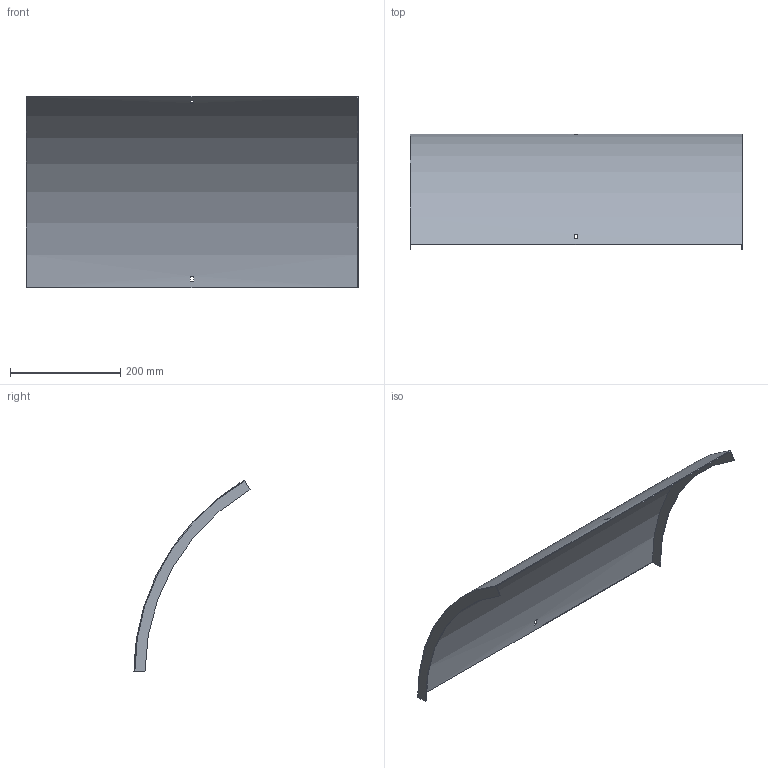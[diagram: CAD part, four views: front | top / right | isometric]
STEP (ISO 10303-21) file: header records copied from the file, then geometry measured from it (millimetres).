
FILE_DESCRIPTION (( 'STEP AP214' ), '1' );
FILE_NAME ('B2_41N3D600.step', '2025-02-21T10:41:50', ( '' ), ( '' ), 'SwSTEP 2.0', 'SolidWorks 2023', '' );
FILE_SCHEMA (( 'AUTOMOTIVE_DESIGN' ));
Length unit declared in the file: millimetre
Products named in the file (1): B2_41N3D600
Bounding box: 603 x 210.75 x 347.71 mm (x, y, z)
Volume: 402121 mm3; surface area: 539375.3 mm2
Topology: 1 solids, 1 shells, 18 faces, 48 edges, 32 vertices
Faces by surface type: plane 14, cylinder 4
Entity records: 599 total; most frequent: DIRECTION 102, CARTESIAN_POINT 99, ORIENTED_EDGE 96, EDGE_CURVE 48, AXIS2_PLACEMENT_3D 35, LINE 32, VERTEX_POINT 32, VECTOR 32
